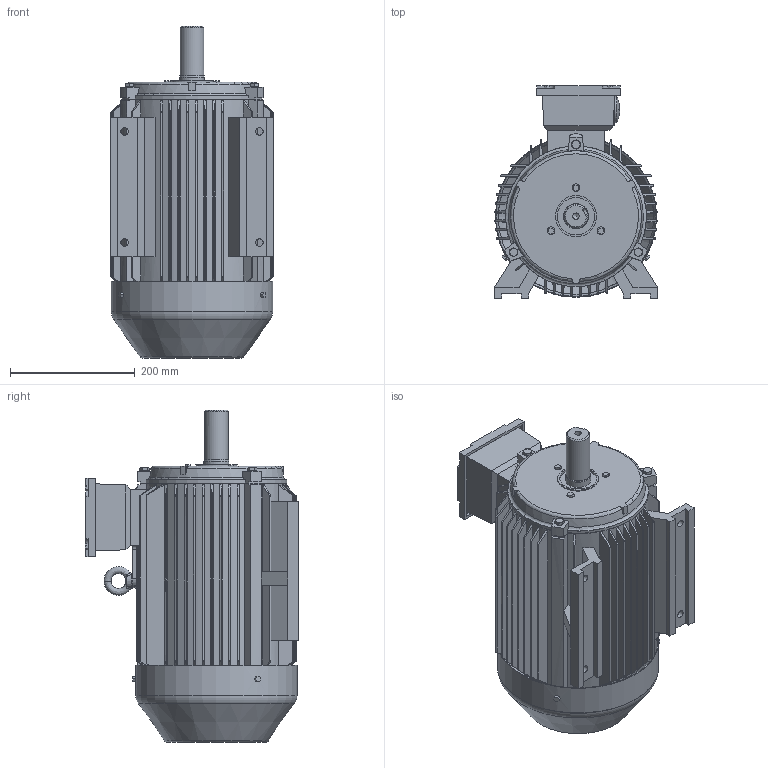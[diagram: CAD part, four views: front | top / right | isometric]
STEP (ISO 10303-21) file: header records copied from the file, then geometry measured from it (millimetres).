
FILE_DESCRIPTION(/* description */ (''),/* implementation_level */ '2;1');
FILE_NAME(/* name */ 'C:/Users/luigi_zhang/Desktop/temp/TE3-132M B3╢Ñ.step',/* time_stamp */ '2020-07-01T16:10:31+10:00',/* author */ (''),/* organization */ (''),/* preprocessor_version */ 'ST-DEVELOPER v18.1',/* originating_system */ 'Autodesk Translation Framework v9.3.0.1241',/* authorisation */ '');
FILE_SCHEMA (('AUTOMOTIVE_DESIGN { 1 0 10303 214 3 1 1 }'));
Products named in the file (8): (Unsaved); »ú×ùYX3-132M B3ÉÏ; GX132 P24 ¶Ë¸Ç£¨ÖáÉ
ì£©; TE3-132 ·çÕÖ; TE3-132 ÖáÉì; GX112~132 P24½ÓÏßºÐ¸Ç; eyebolts gb_GB_FASTENER_SCREWS_FRS M10-N; hexagon head bolts--product grade c gb_GB_FASTENER_BOLT_HHBC M8X40-N
Assembly tree (9 placements, depth 2):
  (Unsaved)
    »ú×ùYX3-132M B3ÉÏ
    GX132 P24 ¶Ë¸Ç£¨ÖáÉ
ì£©
    TE3-132 ·çÕÖ
    TE3-132 ÖáÉì
    GX112~132 P24½ÓÏßºÐ¸Ç
    eyebolts gb_GB_FASTENER_SCREWS_FRS M10-N
    hexagon head bolts--product grade c gb_GB_FASTENER_BOLT_HHBC M8X40-N  x3
Bounding box: 262 x 342.3 x 532 mm (x, y, z)
Volume: 16177028.2 mm3; surface area: 1294919.2 mm2
Topology: 9 solids, 14 shells, 1139 faces, 2783 edges, 1841 vertices
Faces by surface type: plane 891, cylinder 108, bspline 78, cone 45, torus 16, sphere 1
Full cylindrical faces by diameter (mm): 5 x4, 8 x7, 10 x5, 10.2 x1, 12 x7, 12.669 x1, 14.696 x1, 19.456 x1, 38 x1, 40 x2, 42.7 x1, 60 x1, 66 x1, 215 x1, 256.4 x1, 258.4 x1
Entity records: 53594 total; most frequent: CARTESIAN_POINT 27911, ORIENTED_EDGE 5412, DIRECTION 4695, EDGE_CURVE 2706, LINE 2057, VECTOR 2057, VERTEX_POINT 1795, AXIS2_PLACEMENT_3D 1319
